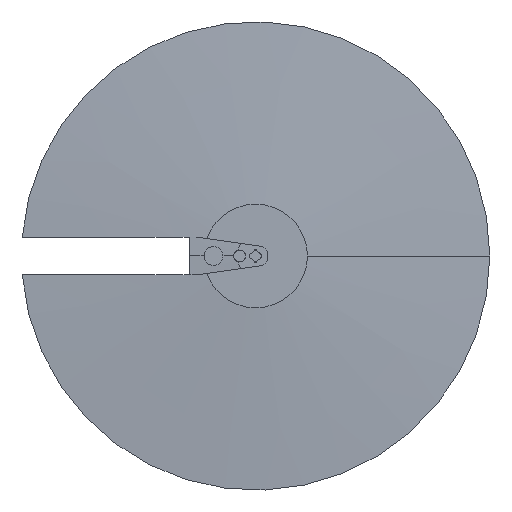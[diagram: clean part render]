
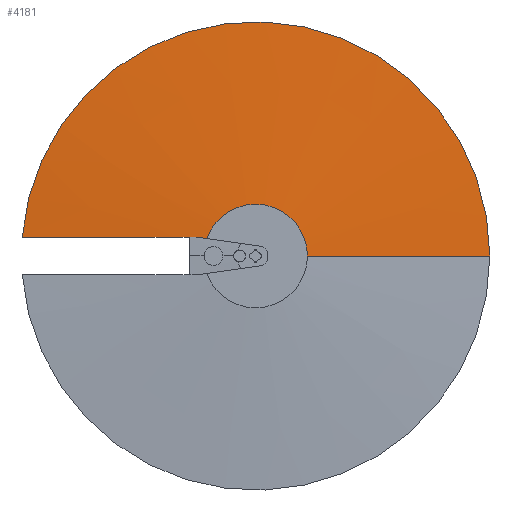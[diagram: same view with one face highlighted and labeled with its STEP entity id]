
A CAD part, front view. The second image highlights one B-rep face of the part: STEP entity #4181.
In plain terms, the highlighted conical face has half-angle 86.362 degrees and reference radius 495.006 mm.
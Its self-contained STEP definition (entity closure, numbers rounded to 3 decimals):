
#48 = EDGE_CURVE ( 'NONE', #527, #5365, #5239, .T. ) ;
#138 = DIRECTION ( 'NONE',  ( 1., 0., 0. ) ) ;
#164 = EDGE_LOOP ( 'NONE', ( #5817, #449, #4652, #1998, #583, #5519 ) ) ;
#256 = CARTESIAN_POINT ( 'NONE',  ( -125., -94.013, 645.955 ) ) ;
#259 = VECTOR ( 'NONE', #5621, 1000. ) ;
#300 = AXIS2_PLACEMENT_3D ( 'NONE', #4739, #5279, #138 ) ;
#449 = ORIENTED_EDGE ( 'NONE', *, *, #48, .T. ) ;
#472 = AXIS2_PLACEMENT_3D ( 'NONE', #5100, #2986, #5721 ) ;
#527 = VERTEX_POINT ( 'NONE', #4720 ) ;
#568 = CARTESIAN_POINT ( 'NONE',  ( -125., -94.013, 645.955 ) ) ;
#583 = ORIENTED_EDGE ( 'NONE', *, *, #4363, .T. ) ;
#817 = CARTESIAN_POINT ( 'NONE',  ( 0., -70.49, 645.955 ) ) ;
#1152 = CARTESIAN_POINT ( 'NONE',  ( -370.596, -78.268, 685.955 ) ) ;
#1417 = CARTESIAN_POINT ( 'NONE',  ( -125., -93.616, 685.955 ) ) ;
#1497 = CIRCLE ( 'NONE', #300, 495.006 ) ;
#1753 = CARTESIAN_POINT ( 'NONE',  ( -125., -93.874, 672.623 ) ) ;
#1761 = CARTESIAN_POINT ( 'NONE',  ( -201.752, -88.885, 685.955 ) ) ;
#1794 = CARTESIAN_POINT ( 'NONE',  ( -247.802, -86.006, 685.955 ) ) ;
#1998 = ORIENTED_EDGE ( 'NONE', *, *, #3575, .T. ) ;
#2119 = CARTESIAN_POINT ( 'NONE',  ( 495.006, -70.49, 645.955 ) ) ;
#2319 = CIRCLE ( 'NONE', #472, 109.473 ) ;
#2330 = CARTESIAN_POINT ( 'NONE',  ( -186.403, -89.842, 685.955 ) ) ;
#2360 = EDGE_CURVE ( 'NONE', #6695, #3423, #3091, .T. ) ;
#2593 = VERTEX_POINT ( 'NONE', #1417 ) ;
#2611 = VERTEX_POINT ( 'NONE', #6070 ) ;
#2805 = EDGE_CURVE ( 'NONE', #527, #6695, #2319, .T. ) ;
#2986 = DIRECTION ( 'NONE',  ( 0., -1., 0. ) ) ;
#3082 = DIRECTION ( 'NONE',  ( 0.998, 0.063, 0. ) ) ;
#3091 = LINE ( 'NONE', #5144, #259 ) ;
#3320 = B_SPLINE_CURVE_WITH_KNOTS ( 'NONE', 3,
 ( #6346, #1753, #3324, #256 ),
 .UNSPECIFIED., .F., .F.,
 ( 4, 4 ),
 ( 0.084, 0.124 ),
 .UNSPECIFIED. ) ;
#3324 = CARTESIAN_POINT ( 'NONE',  ( -125., -94.013, 659.29 ) ) ;
#3330 = B_SPLINE_CURVE_WITH_KNOTS ( 'NONE', 3,
 ( #5939, #4783, #1152, #5911, #1794, #1761, #2330, #4331, #3851, #5844 ),
 .UNSPECIFIED., .F., .F.,
 ( 4, 2, 2, 2, 4 ),
 ( 0., 0.185, 0.277, 0.323, 0.369 ),
 .UNSPECIFIED. ) ;
#3423 = VERTEX_POINT ( 'NONE', #568 ) ;
#3566 = CONICAL_SURFACE ( 'NONE', #6418, 495.006, 1.507 ) ;
#3575 = EDGE_CURVE ( 'NONE', #2611, #2593, #3330, .T. ) ;
#3836 = DIRECTION ( 'NONE',  ( -1., 0., 0. ) ) ;
#3851 = CARTESIAN_POINT ( 'NONE',  ( -140.351, -92.686, 685.955 ) ) ;
#4181 = ADVANCED_FACE ( 'NONE', ( #6468 ), #3566, .T. ) ;
#4331 = CARTESIAN_POINT ( 'NONE',  ( -155.702, -91.742, 685.955 ) ) ;
#4363 = EDGE_CURVE ( 'NONE', #2593, #3423, #3320, .T. ) ;
#4652 = ORIENTED_EDGE ( 'NONE', *, *, #5507, .T. ) ;
#4720 = CARTESIAN_POINT ( 'NONE',  ( 109.473, -95., 645.955 ) ) ;
#4739 = CARTESIAN_POINT ( 'NONE',  ( 0., -70.49, 645.955 ) ) ;
#4783 = CARTESIAN_POINT ( 'NONE',  ( -431.992, -74.381, 685.955 ) ) ;
#4954 = DIRECTION ( 'NONE',  ( 0., 1., 0. ) ) ;
#5100 = CARTESIAN_POINT ( 'NONE',  ( 0., -95., 645.955 ) ) ;
#5144 = CARTESIAN_POINT ( 'NONE',  ( -495.006, -70.49, 645.955 ) ) ;
#5239 = LINE ( 'NONE', #2119, #6633 ) ;
#5279 = DIRECTION ( 'NONE',  ( 0., -1., 0. ) ) ;
#5313 = CARTESIAN_POINT ( 'NONE',  ( 495.006, -70.49, 645.955 ) ) ;
#5365 = VERTEX_POINT ( 'NONE', #5313 ) ;
#5507 = EDGE_CURVE ( 'NONE', #5365, #2611, #1497, .T. ) ;
#5519 = ORIENTED_EDGE ( 'NONE', *, *, #2360, .F. ) ;
#5621 = DIRECTION ( 'NONE',  ( -0.998, 0.063, 0. ) ) ;
#5721 = DIRECTION ( 'NONE',  ( 1., 0., 0. ) ) ;
#5817 = ORIENTED_EDGE ( 'NONE', *, *, #2805, .F. ) ;
#5844 = CARTESIAN_POINT ( 'NONE',  ( -125., -93.616, 685.955 ) ) ;
#5911 = CARTESIAN_POINT ( 'NONE',  ( -278.5, -84.074, 685.955 ) ) ;
#5939 = CARTESIAN_POINT ( 'NONE',  ( -493.387, -70.49, 685.955 ) ) ;
#6070 = CARTESIAN_POINT ( 'NONE',  ( -493.387, -70.49, 685.955 ) ) ;
#6280 = CARTESIAN_POINT ( 'NONE',  ( -109.473, -95., 645.955 ) ) ;
#6346 = CARTESIAN_POINT ( 'NONE',  ( -125., -93.616, 685.955 ) ) ;
#6418 = AXIS2_PLACEMENT_3D ( 'NONE', #817, #4954, #3836 ) ;
#6468 = FACE_OUTER_BOUND ( 'NONE', #164, .T. ) ;
#6633 = VECTOR ( 'NONE', #3082, 1000. ) ;
#6695 = VERTEX_POINT ( 'NONE', #6280 ) ;
